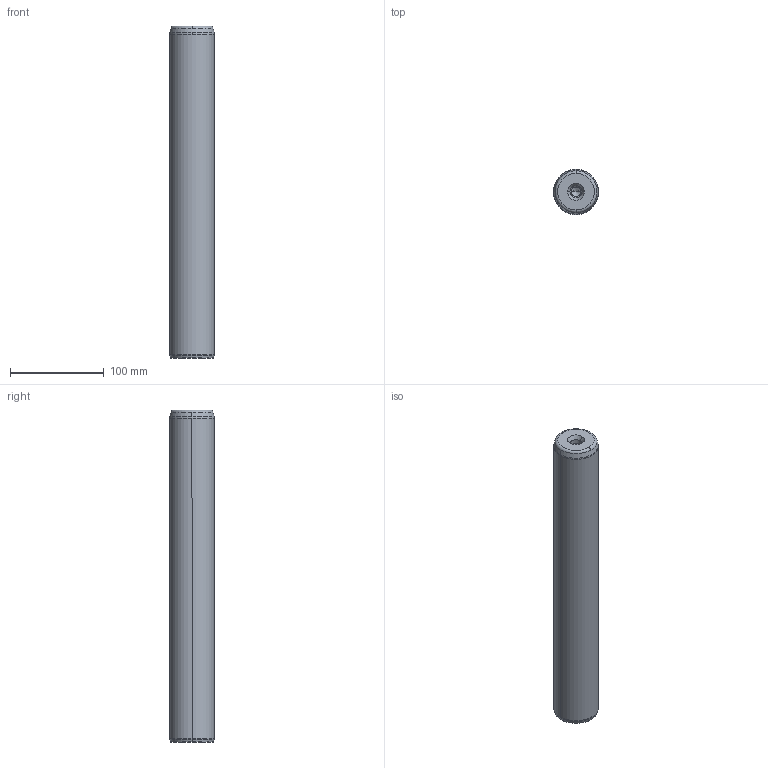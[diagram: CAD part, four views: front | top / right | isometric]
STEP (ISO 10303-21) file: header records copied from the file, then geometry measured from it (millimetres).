
FILE_DESCRIPTION((''),'2;1');
FILE_NAME('P10_048_355.stp','2008-12-23T16:09:16',(''),(''),'Mechanical Desktop 2009','Mechanical Desktop 2009',', , ');
FILE_SCHEMA(('CONFIG_CONTROL_DESIGN'));
Length unit declared in the file: millimetre
Products named in the file (5): Product; ProductAA; blmdl1; ProductA; blmdl1A
Assembly tree (2 placements, depth 3):
  Product
    ProductAA
      blmdl1
  ProductA
  blmdl1A
Bounding box: 48 x 48 x 355 mm (x, y, z)
Volume: 636826.4 mm3; surface area: 57809.6 mm2
Topology: 1 solids, 1 shells, 26 faces, 66 edges, 41 vertices
Faces by surface type: cone 10, torus 8, cylinder 6, plane 2
Entity records: 1012 total; most frequent: DIRECTION 170, CARTESIAN_POINT 134, ORIENTED_EDGE 128, AXIS2_PLACEMENT_3D 77, EDGE_CURVE 64, CIRCLE 48, VERTEX_POINT 41, EDGE_LOOP 27
